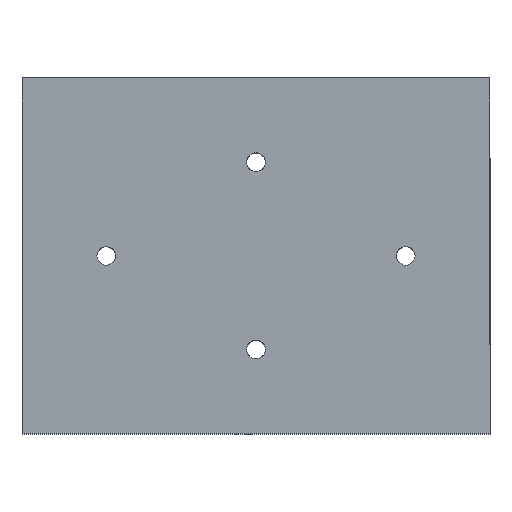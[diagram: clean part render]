
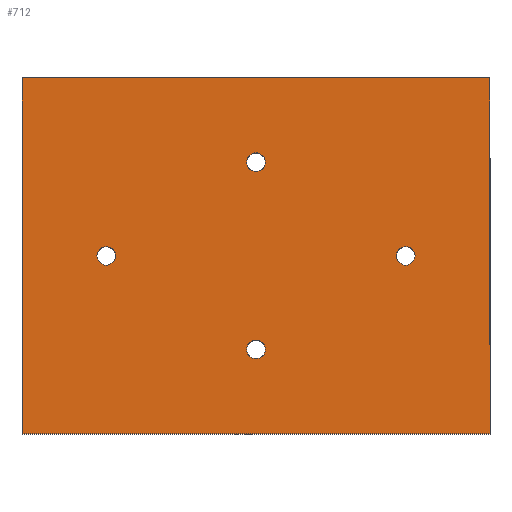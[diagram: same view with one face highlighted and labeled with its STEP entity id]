
A CAD part, top view. The second image highlights one B-rep face of the part: STEP entity #712.
In plain terms, the highlighted planar face has unit normal (0, 0, 1).
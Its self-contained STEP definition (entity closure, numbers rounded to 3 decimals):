
#32 = DIRECTION ( 'NONE',  ( 1., 0., 0. ) ) ;
#35 = EDGE_CURVE ( 'NONE', #958, #833, #109, .T. ) ;
#36 = CARTESIAN_POINT ( 'NONE',  ( -25., 19., 12.5 ) ) ;
#61 = EDGE_CURVE ( 'NONE', #1259, #1964, #402, .T. ) ;
#109 = CIRCLE ( 'NONE', #336, 1. ) ;
#127 = EDGE_CURVE ( 'NONE', #378, #1102, #1248, .T. ) ;
#132 = VERTEX_POINT ( 'NONE', #1571 ) ;
#141 = AXIS2_PLACEMENT_3D ( 'NONE', #873, #1193, #2016 ) ;
#159 = DIRECTION ( 'NONE',  ( 0., 0., 1. ) ) ;
#193 = DIRECTION ( 'NONE',  ( 0., 0., 1. ) ) ;
#198 = FACE_BOUND ( 'NONE', #1169, .T. ) ;
#204 = EDGE_LOOP ( 'NONE', ( #1309, #1058 ) ) ;
#211 = AXIS2_PLACEMENT_3D ( 'NONE', #1913, #1575, #286 ) ;
#218 = CARTESIAN_POINT ( 'NONE',  ( -17., 0., 12.5 ) ) ;
#278 = CIRCLE ( 'NONE', #1930, 1. ) ;
#285 = EDGE_CURVE ( 'NONE', #132, #1504, #684, .T. ) ;
#286 = DIRECTION ( 'NONE',  ( -1., 0., 0. ) ) ;
#299 = DIRECTION ( 'NONE',  ( 0., 0., 1. ) ) ;
#323 = CARTESIAN_POINT ( 'NONE',  ( 0., 0., 12.5 ) ) ;
#335 = CARTESIAN_POINT ( 'NONE',  ( 25., -19., 12.5 ) ) ;
#336 = AXIS2_PLACEMENT_3D ( 'NONE', #1043, #1707, #1886 ) ;
#344 = EDGE_CURVE ( 'NONE', #1504, #132, #1198, .T. ) ;
#346 = FACE_OUTER_BOUND ( 'NONE', #1514, .T. ) ;
#347 = VERTEX_POINT ( 'NONE', #982 ) ;
#350 = CARTESIAN_POINT ( 'NONE',  ( -1., -10., 12.5 ) ) ;
#378 = VERTEX_POINT ( 'NONE', #335 ) ;
#402 = LINE ( 'NONE', #36, #1266 ) ;
#430 = ORIENTED_EDGE ( 'NONE', *, *, #285, .F. ) ;
#432 = EDGE_LOOP ( 'NONE', ( #430, #771 ) ) ;
#509 = DIRECTION ( 'NONE',  ( 1., 0., 0. ) ) ;
#514 = VECTOR ( 'NONE', #1563, 1000. ) ;
#535 = LINE ( 'NONE', #1212, #1295 ) ;
#539 = CARTESIAN_POINT ( 'NONE',  ( -25., 19., 12.5 ) ) ;
#595 = CIRCLE ( 'NONE', #211, 1. ) ;
#631 = ORIENTED_EDGE ( 'NONE', *, *, #884, .F. ) ;
#684 = CIRCLE ( 'NONE', #1507, 1. ) ;
#712 = ADVANCED_FACE ( 'NONE', ( #1183, #1983, #836, #198, #346 ), #1518, .T. ) ;
#728 = LINE ( 'NONE', #1383, #1404 ) ;
#771 = ORIENTED_EDGE ( 'NONE', *, *, #344, .F. ) ;
#783 = CIRCLE ( 'NONE', #141, 1. ) ;
#794 = CARTESIAN_POINT ( 'NONE',  ( -15., 0., 12.5 ) ) ;
#804 = CARTESIAN_POINT ( 'NONE',  ( 0., -10., 12.5 ) ) ;
#805 = CARTESIAN_POINT ( 'NONE',  ( 0., 10., 12.5 ) ) ;
#808 = DIRECTION ( 'NONE',  ( 1., 0., 0. ) ) ;
#810 = EDGE_LOOP ( 'NONE', ( #1813, #1401 ) ) ;
#823 = CARTESIAN_POINT ( 'NONE',  ( 25., 19., 12.5 ) ) ;
#833 = VERTEX_POINT ( 'NONE', #1220 ) ;
#836 = FACE_BOUND ( 'NONE', #432, .T. ) ;
#846 = DIRECTION ( 'NONE',  ( 0., 0., 1. ) ) ;
#873 = CARTESIAN_POINT ( 'NONE',  ( -16., 0., 12.5 ) ) ;
#874 = ORIENTED_EDGE ( 'NONE', *, *, #127, .T. ) ;
#884 = EDGE_CURVE ( 'NONE', #1250, #1835, #783, .T. ) ;
#905 = ORIENTED_EDGE ( 'NONE', *, *, #1944, .T. ) ;
#930 = AXIS2_PLACEMENT_3D ( 'NONE', #323, #846, #509 ) ;
#958 = VERTEX_POINT ( 'NONE', #1092 ) ;
#961 = CIRCLE ( 'NONE', #2029, 1. ) ;
#975 = DIRECTION ( 'NONE',  ( 1., 0., 0. ) ) ;
#977 = DIRECTION ( 'NONE',  ( 0., 0., 1. ) ) ;
#982 = CARTESIAN_POINT ( 'NONE',  ( 17., 0., 12.5 ) ) ;
#986 = EDGE_CURVE ( 'NONE', #1835, #1250, #595, .T. ) ;
#1043 = CARTESIAN_POINT ( 'NONE',  ( 0., 10., 12.5 ) ) ;
#1054 = VERTEX_POINT ( 'NONE', #1818 ) ;
#1058 = ORIENTED_EDGE ( 'NONE', *, *, #1171, .F. ) ;
#1092 = CARTESIAN_POINT ( 'NONE',  ( -1., 10., 12.5 ) ) ;
#1102 = VERTEX_POINT ( 'NONE', #823 ) ;
#1110 = CARTESIAN_POINT ( 'NONE',  ( 25., 19., 12.5 ) ) ;
#1124 = ORIENTED_EDGE ( 'NONE', *, *, #61, .T. ) ;
#1127 = DIRECTION ( 'NONE',  ( 1., 0., 0. ) ) ;
#1169 = EDGE_LOOP ( 'NONE', ( #1881, #631 ) ) ;
#1171 = EDGE_CURVE ( 'NONE', #1054, #347, #278, .T. ) ;
#1176 = DIRECTION ( 'NONE',  ( 1., 0., 0. ) ) ;
#1179 = DIRECTION ( 'NONE',  ( 0., -1., 0. ) ) ;
#1183 = FACE_BOUND ( 'NONE', #810, .T. ) ;
#1186 = CARTESIAN_POINT ( 'NONE',  ( 16., 0., 12.5 ) ) ;
#1193 = DIRECTION ( 'NONE',  ( 0., 0., 1. ) ) ;
#1198 = CIRCLE ( 'NONE', #1470, 1. ) ;
#1212 = CARTESIAN_POINT ( 'NONE',  ( -25., -19., 12.5 ) ) ;
#1220 = CARTESIAN_POINT ( 'NONE',  ( 1., 10., 12.5 ) ) ;
#1222 = DIRECTION ( 'NONE',  ( -1., 0., 0. ) ) ;
#1248 = LINE ( 'NONE', #1110, #514 ) ;
#1250 = VERTEX_POINT ( 'NONE', #218 ) ;
#1259 = VERTEX_POINT ( 'NONE', #539 ) ;
#1266 = VECTOR ( 'NONE', #1179, 1000. ) ;
#1295 = VECTOR ( 'NONE', #1176, 1000. ) ;
#1309 = ORIENTED_EDGE ( 'NONE', *, *, #1889, .F. ) ;
#1332 = CIRCLE ( 'NONE', #1660, 1. ) ;
#1383 = CARTESIAN_POINT ( 'NONE',  ( -25., 19., 12.5 ) ) ;
#1401 = ORIENTED_EDGE ( 'NONE', *, *, #35, .F. ) ;
#1404 = VECTOR ( 'NONE', #1222, 1000. ) ;
#1460 = EDGE_CURVE ( 'NONE', #833, #958, #1332, .T. ) ;
#1470 = AXIS2_PLACEMENT_3D ( 'NONE', #1978, #299, #1127 ) ;
#1504 = VERTEX_POINT ( 'NONE', #350 ) ;
#1507 = AXIS2_PLACEMENT_3D ( 'NONE', #804, #159, #1969 ) ;
#1514 = EDGE_LOOP ( 'NONE', ( #874, #905, #1124, #1950 ) ) ;
#1518 = PLANE ( 'NONE',  #930 ) ;
#1563 = DIRECTION ( 'NONE',  ( 0., 1., 0. ) ) ;
#1571 = CARTESIAN_POINT ( 'NONE',  ( 1., -10., 12.5 ) ) ;
#1575 = DIRECTION ( 'NONE',  ( 0., 0., 1. ) ) ;
#1660 = AXIS2_PLACEMENT_3D ( 'NONE', #805, #193, #975 ) ;
#1707 = DIRECTION ( 'NONE',  ( 0., 0., 1. ) ) ;
#1813 = ORIENTED_EDGE ( 'NONE', *, *, #1460, .F. ) ;
#1818 = CARTESIAN_POINT ( 'NONE',  ( 15., 0., 12.5 ) ) ;
#1835 = VERTEX_POINT ( 'NONE', #794 ) ;
#1862 = EDGE_CURVE ( 'NONE', #1964, #378, #535, .T. ) ;
#1871 = DIRECTION ( 'NONE',  ( 0., 0., 1. ) ) ;
#1881 = ORIENTED_EDGE ( 'NONE', *, *, #986, .F. ) ;
#1886 = DIRECTION ( 'NONE',  ( 1., 0., 0. ) ) ;
#1889 = EDGE_CURVE ( 'NONE', #347, #1054, #961, .T. ) ;
#1913 = CARTESIAN_POINT ( 'NONE',  ( -16., 0., 12.5 ) ) ;
#1915 = CARTESIAN_POINT ( 'NONE',  ( -25., -19., 12.5 ) ) ;
#1930 = AXIS2_PLACEMENT_3D ( 'NONE', #2004, #977, #808 ) ;
#1944 = EDGE_CURVE ( 'NONE', #1102, #1259, #728, .T. ) ;
#1950 = ORIENTED_EDGE ( 'NONE', *, *, #1862, .T. ) ;
#1964 = VERTEX_POINT ( 'NONE', #1915 ) ;
#1969 = DIRECTION ( 'NONE',  ( 1., 0., 0. ) ) ;
#1978 = CARTESIAN_POINT ( 'NONE',  ( 0., -10., 12.5 ) ) ;
#1983 = FACE_BOUND ( 'NONE', #204, .T. ) ;
#2004 = CARTESIAN_POINT ( 'NONE',  ( 16., 0., 12.5 ) ) ;
#2016 = DIRECTION ( 'NONE',  ( -1., 0., 0. ) ) ;
#2029 = AXIS2_PLACEMENT_3D ( 'NONE', #1186, #1871, #32 ) ;
